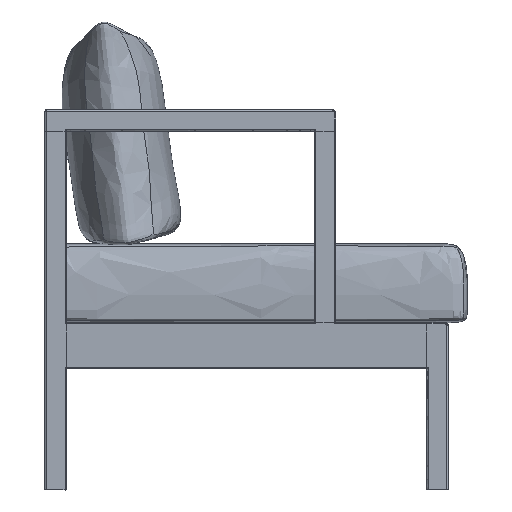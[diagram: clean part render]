
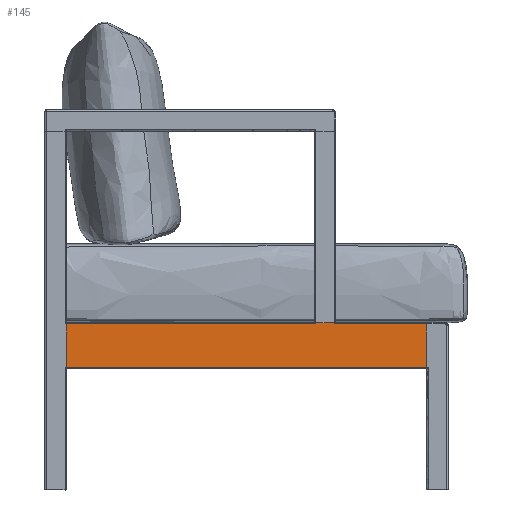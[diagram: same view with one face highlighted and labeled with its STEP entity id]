
A CAD part, left-side view. The second image highlights one B-rep face of the part: STEP entity #145.
In plain terms, the highlighted planar face has unit normal (-1, 0, 0).
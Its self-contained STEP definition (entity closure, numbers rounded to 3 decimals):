
#145=ADVANCED_FACE('',(#347),#3011,.T.);
#347=FACE_OUTER_BOUND('',#549,.T.);
#549=EDGE_LOOP('',(#1215,#1216,#1217,#1218,#1219,#1220,#1221,#1222));
#1215=ORIENTED_EDGE('',*,*,#1893,.T.);
#1216=ORIENTED_EDGE('',*,*,#1875,.T.);
#1217=ORIENTED_EDGE('',*,*,#1894,.T.);
#1218=ORIENTED_EDGE('',*,*,#1899,.F.);
#1219=ORIENTED_EDGE('',*,*,#1919,.T.);
#1220=ORIENTED_EDGE('',*,*,#1898,.T.);
#1221=ORIENTED_EDGE('',*,*,#1906,.F.);
#1222=ORIENTED_EDGE('',*,*,#1897,.F.);
#1875=EDGE_CURVE('',#2728,#2733,#2404,.T.);
#1893=EDGE_CURVE('',#2734,#2728,#2418,.T.);
#1894=EDGE_CURVE('',#2733,#2735,#2161,.T.);
#1897=EDGE_CURVE('',#2734,#2716,#2421,.T.);
#1898=EDGE_CURVE('',#2746,#2738,#2422,.T.);
#1899=EDGE_CURVE('',#2747,#2735,#2423,.T.);
#1906=EDGE_CURVE('',#2716,#2738,#2429,.T.);
#1919=EDGE_CURVE('',#2747,#2746,#2438,.T.);
#2161=(
BOUNDED_CURVE()
B_SPLINE_CURVE(1,(#84159,#84160),.UNSPECIFIED.,.F.,.F.)
B_SPLINE_CURVE_WITH_KNOTS((2,2),(315.,317.),.UNSPECIFIED.)
CURVE()
GEOMETRIC_REPRESENTATION_ITEM()
RATIONAL_B_SPLINE_CURVE((1.,1.))
REPRESENTATION_ITEM('')
);
#2404=B_SPLINE_CURVE_WITH_KNOTS('',1,(#84107,#84108),.UNSPECIFIED.,.F.,
 .F.,(2,2),(34.,65.),.UNSPECIFIED.);
#2418=B_SPLINE_CURVE_WITH_KNOTS('',1,(#84157,#84158),.UNSPECIFIED.,.F.,
 .F.,(2,2),(-2.,0.),.UNSPECIFIED.);
#2421=B_SPLINE_CURVE_WITH_KNOTS('',1,(#84175,#84176),.UNSPECIFIED.,.F.,
 .F.,(2,2),(0.,152.),.UNSPECIFIED.);
#2422=B_SPLINE_CURVE_WITH_KNOTS('',1,(#84177,#84178),.UNSPECIFIED.,.F.,
 .F.,(2,2),(0.,593.),.UNSPECIFIED.);
#2423=B_SPLINE_CURVE_WITH_KNOTS('',1,(#84179,#84180),.UNSPECIFIED.,.F.,
 .F.,(2,2),(0.,410.),.UNSPECIFIED.);
#2429=B_SPLINE_CURVE_WITH_KNOTS('',1,(#84194,#84195),.UNSPECIFIED.,.F.,
 .F.,(2,2),(-585.709,-433.382),.UNSPECIFIED.);
#2438=B_SPLINE_CURVE_WITH_KNOTS('',1,(#84239,#84240),.UNSPECIFIED.,.F.,
 .F.,(2,2),(-273.,-202.),.UNSPECIFIED.);
#2716=VERTEX_POINT('',#82502);
#2728=VERTEX_POINT('',#82514);
#2733=VERTEX_POINT('',#82519);
#2734=VERTEX_POINT('',#82520);
#2735=VERTEX_POINT('',#82521);
#2738=VERTEX_POINT('',#82524);
#2746=VERTEX_POINT('',#82532);
#2747=VERTEX_POINT('',#82533);
#3011=PLANE('',#3114);
#3114=AXIS2_PLACEMENT_3D('',#74766,#3200,$);
#3200=DIRECTION('',(-1.,0.,0.));
#74766=CARTESIAN_POINT('',(-332.,-281.045,275.));
#82502=CARTESIAN_POINT('',(-332.,-281.045,273.));
#82514=CARTESIAN_POINT('',(-332.,-129.045,275.));
#82519=CARTESIAN_POINT('',(-332.,-98.045,275.));
#82520=CARTESIAN_POINT('',(-332.,-129.045,273.));
#82521=CARTESIAN_POINT('',(-332.,-98.045,273.));
#82524=CARTESIAN_POINT('',(-332.,-281.045,202.));
#82532=CARTESIAN_POINT('',(-332.,311.955,202.));
#82533=CARTESIAN_POINT('',(-332.,311.955,273.));
#84107=CARTESIAN_POINT('',(-332.,-129.045,275.));
#84108=CARTESIAN_POINT('',(-332.,-98.045,275.));
#84157=CARTESIAN_POINT('',(-332.,-129.045,273.));
#84158=CARTESIAN_POINT('',(-332.,-129.045,275.));
#84159=CARTESIAN_POINT('',(-332.,-98.045,275.));
#84160=CARTESIAN_POINT('',(-332.,-98.045,273.));
#84175=CARTESIAN_POINT('',(-332.,-129.045,273.));
#84176=CARTESIAN_POINT('',(-332.,-281.045,273.));
#84177=CARTESIAN_POINT('',(-332.,311.955,202.));
#84178=CARTESIAN_POINT('',(-332.,-281.045,202.));
#84179=CARTESIAN_POINT('',(-332.,311.955,273.));
#84180=CARTESIAN_POINT('',(-332.,-98.045,273.));
#84194=CARTESIAN_POINT('',(-332.,-281.045,273.));
#84195=CARTESIAN_POINT('',(-332.,-281.045,202.));
#84239=CARTESIAN_POINT('',(-332.,311.955,273.));
#84240=CARTESIAN_POINT('',(-332.,311.955,202.));
